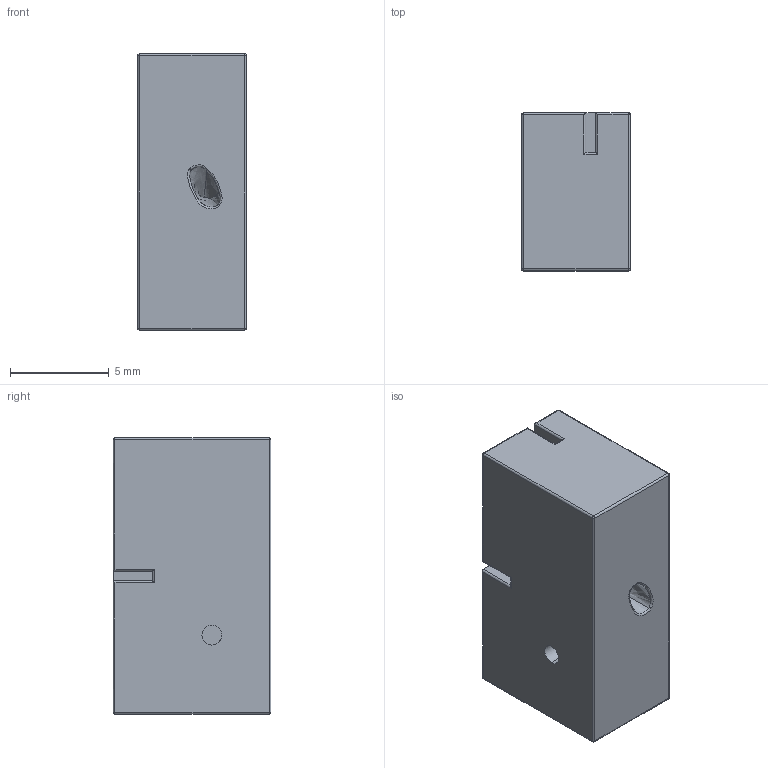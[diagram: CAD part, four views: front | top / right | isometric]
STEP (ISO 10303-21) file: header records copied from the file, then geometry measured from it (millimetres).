
FILE_DESCRIPTION (( 'STEP AP214' ), '1' );
FILE_NAME ('ST_mean_phantom_2024_MHH.STEP', '2024-01-19T13:16:04', ( '' ), ( '' ), 'SwSTEP 2.0', 'SolidWorks 2022', '' );
FILE_SCHEMA (( 'AUTOMOTIVE_DESIGN' ));
Length unit declared in the file: millimetre
Products named in the file (1): ST_mean_phantom_2024_MHH
Bounding box: 5.5 x 8 x 14 mm (x, y, z)
Volume: 570.4 mm3; surface area: 646.3 mm2
Topology: 1 solids, 1 shells, 246 faces, 653 edges, 418 vertices
Faces by surface type: plane 141, bspline 71, cylinder 26, sphere 8
Entity records: 14214 total; most frequent: CARTESIAN_POINT 8646, ORIENTED_EDGE 1290, DIRECTION 865, EDGE_CURVE 645, LINE 453, VECTOR 453, VERTEX_POINT 418, EDGE_LOOP 265
